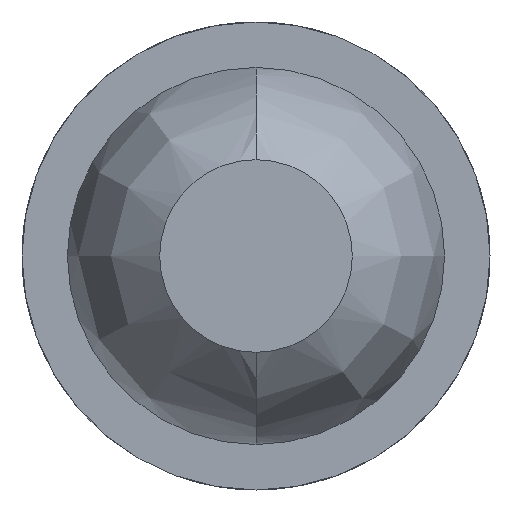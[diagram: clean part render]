
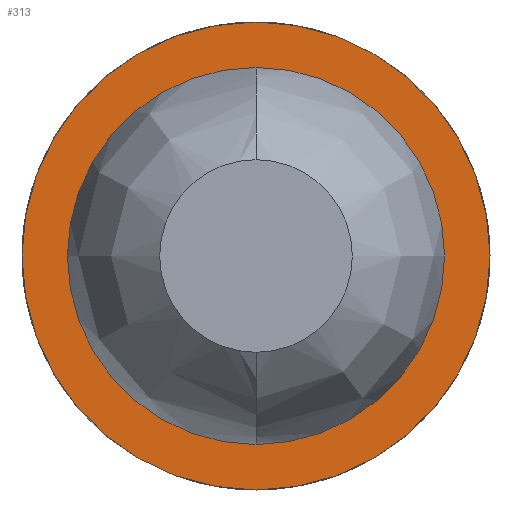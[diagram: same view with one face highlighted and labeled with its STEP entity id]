
A CAD part, front view. The second image highlights one B-rep face of the part: STEP entity #313.
In plain terms, the highlighted planar face has unit normal (0, -1, 0).
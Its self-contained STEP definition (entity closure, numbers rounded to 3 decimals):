
#24 = DIRECTION ( 'NONE',  ( 0., 1., 0. ) ) ;
#52 = ORIENTED_EDGE ( 'NONE', *, *, #863, .F. ) ;
#87 = DIRECTION ( 'NONE',  ( 0., 1., 0. ) ) ;
#96 = DIRECTION ( 'NONE',  ( 0., 0., 1. ) ) ;
#100 = DIRECTION ( 'NONE',  ( 0., -1., 0. ) ) ;
#134 = EDGE_LOOP ( 'NONE', ( #52, #198 ) ) ;
#158 = AXIS2_PLACEMENT_3D ( 'NONE', #355, #477, #815 ) ;
#179 = EDGE_CURVE ( 'NONE', #205, #416, #788, .T. ) ;
#198 = ORIENTED_EDGE ( 'NONE', *, *, #319, .F. ) ;
#205 = VERTEX_POINT ( 'NONE', #917 ) ;
#211 = CARTESIAN_POINT ( 'NONE',  ( 0., 0., 0.45 ) ) ;
#222 = EDGE_CURVE ( 'NONE', #416, #205, #246, .T. ) ;
#223 = VERTEX_POINT ( 'NONE', #211 ) ;
#232 = CARTESIAN_POINT ( 'NONE',  ( 0., 0., 0. ) ) ;
#246 = CIRCLE ( 'NONE', #158, 0.85 ) ;
#309 = DIRECTION ( 'NONE',  ( 0., 0., -1. ) ) ;
#313 = ADVANCED_FACE ( 'NONE', ( #729, #723 ), #718, .F. ) ;
#319 = EDGE_CURVE ( 'NONE', #753, #223, #678, .T. ) ;
#348 = DIRECTION ( 'NONE',  ( 0., 0., 1. ) ) ;
#355 = CARTESIAN_POINT ( 'NONE',  ( 0., 0., 0. ) ) ;
#403 = EDGE_LOOP ( 'NONE', ( #658, #625 ) ) ;
#416 = VERTEX_POINT ( 'NONE', #755 ) ;
#449 = CARTESIAN_POINT ( 'NONE',  ( 0., 0., 0. ) ) ;
#451 = DIRECTION ( 'NONE',  ( 1., 0., 0. ) ) ;
#477 = DIRECTION ( 'NONE',  ( 0., 1., 0. ) ) ;
#481 = CARTESIAN_POINT ( 'NONE',  ( 0., 0., 0. ) ) ;
#515 = CARTESIAN_POINT ( 'NONE',  ( 0., 0., 0. ) ) ;
#544 = CIRCLE ( 'NONE', #893, 0.45 ) ;
#625 = ORIENTED_EDGE ( 'NONE', *, *, #179, .F. ) ;
#658 = ORIENTED_EDGE ( 'NONE', *, *, #222, .F. ) ;
#678 = CIRCLE ( 'NONE', #844, 0.45 ) ;
#684 = DIRECTION ( 'NONE',  ( 0., -1., 0. ) ) ;
#718 = PLANE ( 'NONE',  #768 ) ;
#723 = FACE_OUTER_BOUND ( 'NONE', #403, .T. ) ;
#729 = FACE_BOUND ( 'NONE', #134, .T. ) ;
#750 = CARTESIAN_POINT ( 'NONE',  ( 0., 0., -0.45 ) ) ;
#753 = VERTEX_POINT ( 'NONE', #750 ) ;
#755 = CARTESIAN_POINT ( 'NONE',  ( 0., 0., -0.85 ) ) ;
#768 = AXIS2_PLACEMENT_3D ( 'NONE', #232, #87, #451 ) ;
#788 = CIRCLE ( 'NONE', #908, 0.85 ) ;
#815 = DIRECTION ( 'NONE',  ( 0., 0., -1. ) ) ;
#844 = AXIS2_PLACEMENT_3D ( 'NONE', #515, #100, #96 ) ;
#863 = EDGE_CURVE ( 'NONE', #223, #753, #544, .T. ) ;
#893 = AXIS2_PLACEMENT_3D ( 'NONE', #481, #684, #348 ) ;
#908 = AXIS2_PLACEMENT_3D ( 'NONE', #449, #24, #309 ) ;
#917 = CARTESIAN_POINT ( 'NONE',  ( 0., 0., 0.85 ) ) ;
